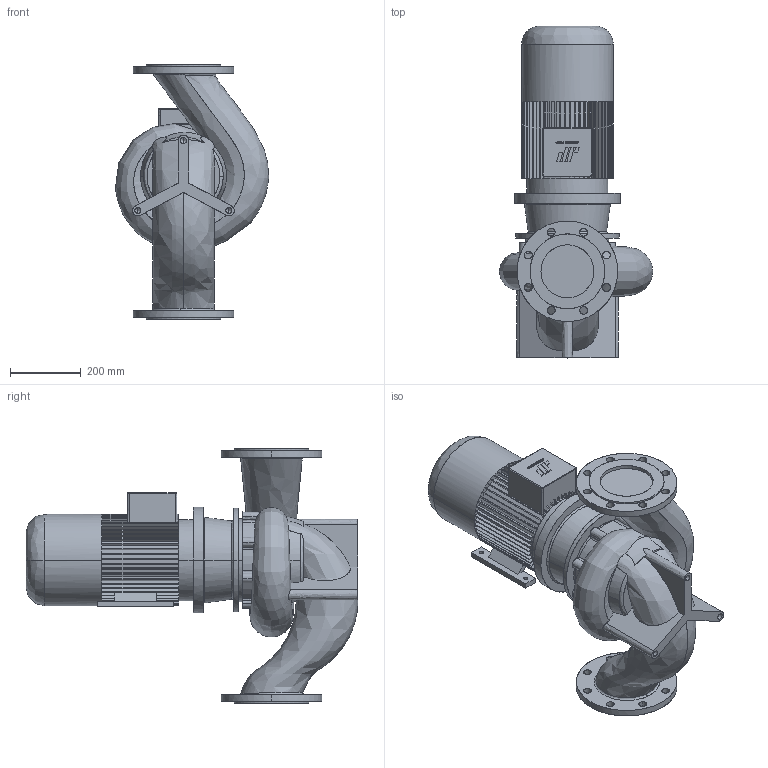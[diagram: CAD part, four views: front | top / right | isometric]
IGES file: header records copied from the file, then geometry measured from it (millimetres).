
Start section: CombiLine
Global section: file name: CLB_150-200_IEC132M_ND10.igs; native system:  By UGS Corp.; preprocessor: XPlus GENERIC/IGES 3.0; author: Stageplaats; organization: Johnson Pump Water B.V.; date: 20070717.143136; units: millimetre
Bounding box: 434.7 x 940.5 x 720 mm (x, y, z)
Surface area: 1999032 mm2 (no closed solid volume)
Topology: 0 solids, 0 shells, 600 faces, 3641 edges, 3635 vertices
Faces by surface type: bspline 600
